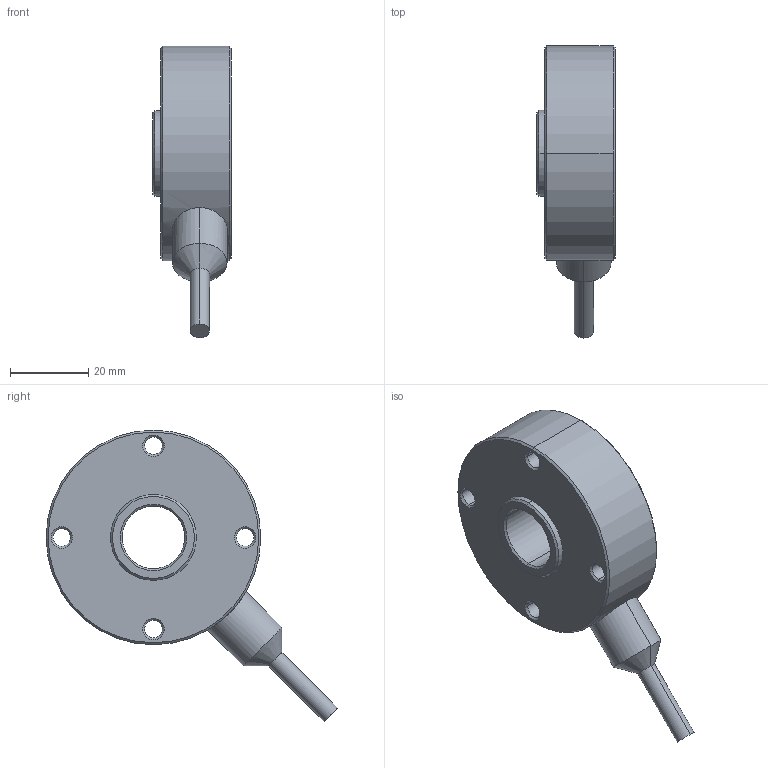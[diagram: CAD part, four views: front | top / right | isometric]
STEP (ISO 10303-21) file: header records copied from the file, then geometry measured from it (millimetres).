
FILE_DESCRIPTION((''),'2;1');
FILE_NAME('14SK_500KG_WXT','2025-08-15T15:00:39',('DELL'),(''),'CREO PARAMETRIC BY PTC INC, 2020354','CREO PARAMETRIC BY PTC INC, 2020354','');
FILE_SCHEMA(('CONFIG_CONTROL_DESIGN'));
Length unit declared in the file: millimetre
Products named in the file (1): 14SK_500KG_WXT
Bounding box: 20 x 74.77 x 74.77 mm (x, y, z)
Volume: 39803.4 mm3; surface area: 10329.3 mm2
Topology: 1 solids, 1 shells, 51 faces, 110 edges, 64 vertices
Faces by surface type: cone 26, cylinder 20, plane 5
Entity records: 1473 total; most frequent: DIRECTION 272, CARTESIAN_POINT 262, ORIENTED_EDGE 220, AXIS2_PLACEMENT_3D 113, EDGE_CURVE 110, VERTEX_POINT 64, EDGE_LOOP 64, CIRCLE 62
